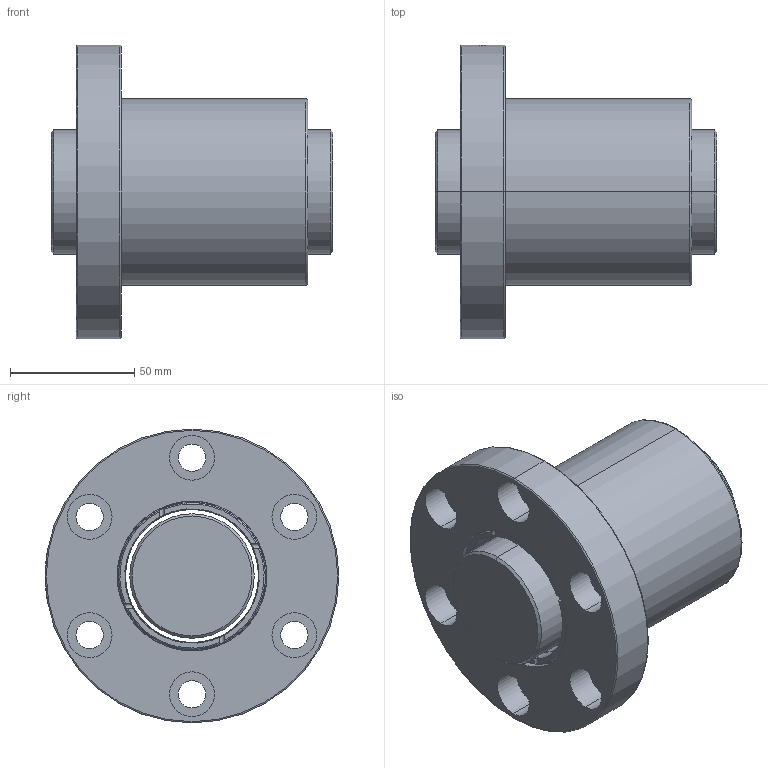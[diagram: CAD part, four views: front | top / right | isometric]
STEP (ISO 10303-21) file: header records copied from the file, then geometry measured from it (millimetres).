
FILE_DESCRIPTION (( 'STEP AP203' ), '1' );
FILE_NAME ('SFZR05010T4N-C.STEP', '2020-06-18T01:02:51', ( '' ), ( '' ), 'SwSTEP 2.0', 'SolidWorks 2013', '' );
FILE_SCHEMA (( 'CONFIG_CONTROL_DESIGN' ));
Length unit declared in the file: millimetre
Products named in the file (1): SFZR05010T4N-C
Bounding box: 113 x 118 x 118 mm (x, y, z)
Volume: 516864.6 mm3; surface area: 88368 mm2
Topology: 2 solids, 2 shells, 119 faces, 290 edges, 182 vertices
Faces by surface type: cylinder 66, plane 25, torus 24, cone 4
Entity records: 4069 total; most frequent: CARTESIAN_POINT 1102, DIRECTION 652, ORIENTED_EDGE 580, EDGE_CURVE 290, AXIS2_PLACEMENT_3D 288, VERTEX_POINT 182, CIRCLE 168, EDGE_LOOP 144
